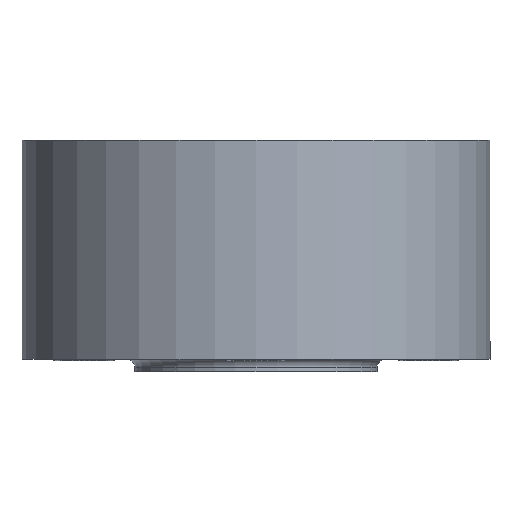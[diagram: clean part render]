
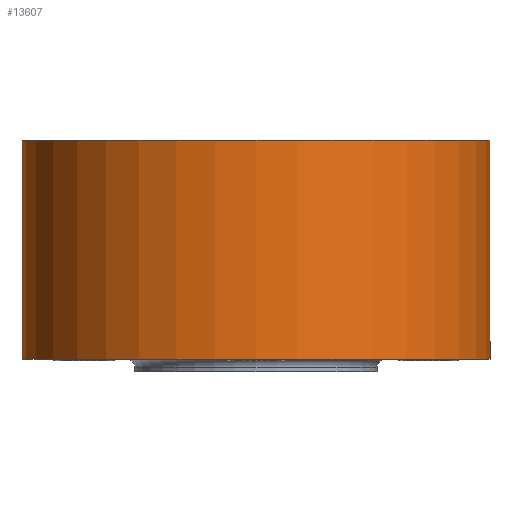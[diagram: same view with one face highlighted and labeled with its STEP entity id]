
A CAD part, front view. The second image highlights one B-rep face of the part: STEP entity #13607.
In plain terms, the highlighted cylindrical face has radius 85 mm (diameter 170 mm), a full revolution.
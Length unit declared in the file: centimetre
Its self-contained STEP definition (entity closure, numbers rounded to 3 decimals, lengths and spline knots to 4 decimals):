
#4661=FACE_BOUND('',#6137,.T.);
#5362=FACE_OUTER_BOUND('',#6136,.T.);
#6136=EDGE_LOOP('',(#12871));
#6137=EDGE_LOOP('',(#12872));
#6191=CIRCLE('',#14118,8.5);
#6201=CIRCLE('',#14140,8.5);
#7420=VERTEX_POINT('',#22810);
#7430=VERTEX_POINT('',#22842);
#9246=EDGE_CURVE('',#7420,#7420,#6191,.T.);
#9256=EDGE_CURVE('',#7430,#7430,#6201,.T.);
#12871=ORIENTED_EDGE('',*,*,#9256,.T.);
#12872=ORIENTED_EDGE('',*,*,#9246,.F.);
#12918=CYLINDRICAL_SURFACE('',#14139,8.5);
#13607=ADVANCED_FACE('',(#5362,#4661),#12918,.T.);
#14118=AXIS2_PLACEMENT_3D('',#22811,#16563,#16564);
#14139=AXIS2_PLACEMENT_3D('',#22841,#16605,#16606);
#14140=AXIS2_PLACEMENT_3D('',#22843,#16607,#16608);
#16563=DIRECTION('center_axis',(0.,0.,
1.));
#16564=DIRECTION('ref_axis',(-1.,0.,0.));
#16605=DIRECTION('center_axis',(0.,0.,
1.));
#16606=DIRECTION('ref_axis',(-1.,0.,0.));
#16607=DIRECTION('center_axis',(0.,0.,1.));
#16608=DIRECTION('ref_axis',(-1.,0.,0.));
#22810=CARTESIAN_POINT('',(8.5,0.,6.4));
#22811=CARTESIAN_POINT('Origin',(0.,0.,
6.4));
#22841=CARTESIAN_POINT('Origin',(0.,0.,
4.4));
#22842=CARTESIAN_POINT('',(-8.5,0.,-1.55));
#22843=CARTESIAN_POINT('Origin',(0.,0.,-1.55));
